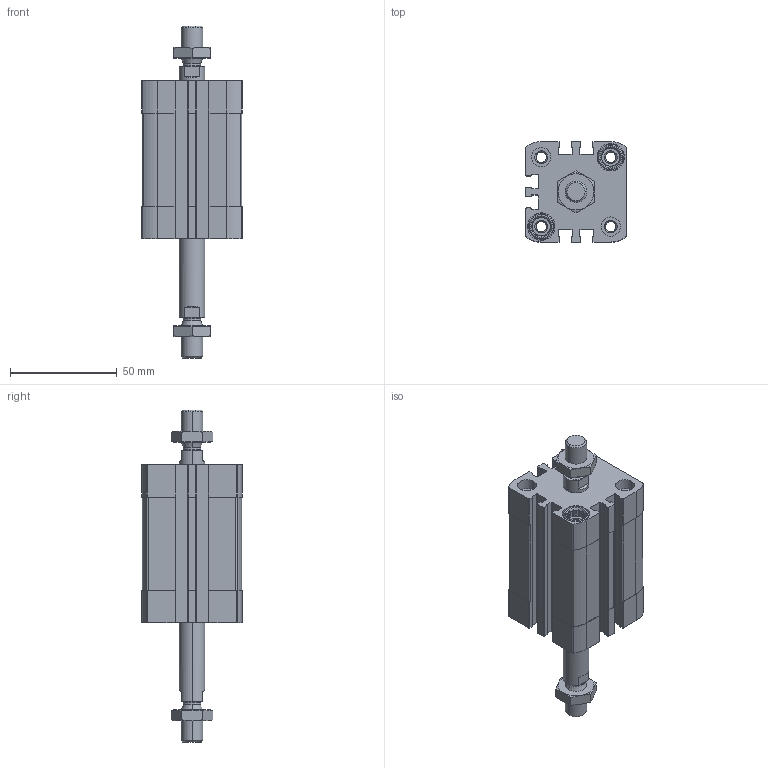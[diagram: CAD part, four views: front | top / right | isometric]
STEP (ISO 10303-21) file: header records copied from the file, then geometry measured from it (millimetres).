
FILE_DESCRIPTION (( 'STEP AP203' ), '1' );
FILE_NAME ('CCN32-30-P.STEP', '2020-06-22T18:47:11', ( '' ), ( '' ), 'SwSTEP 2.0', 'SolidWorks 2019', '' );
FILE_SCHEMA (( 'CONFIG_CONTROL_DESIGN' ));
Length unit declared in the file: millimetre
Products named in the file (1): CCN32-30-P
Bounding box: 47 x 47 x 155.5 mm (x, y, z)
Volume: 122289.4 mm3; surface area: 46929.1 mm2
Topology: 4 solids, 4 shells, 536 faces, 1416 edges, 920 vertices
Faces by surface type: plane 288, cylinder 180, cone 60, torus 8
Entity records: 17371 total; most frequent: CARTESIAN_POINT 3741, DIRECTION 2898, ORIENTED_EDGE 2832, EDGE_CURVE 1416, AXIS2_PLACEMENT_3D 1069, VERTEX_POINT 920, VECTOR 760, LINE 760
